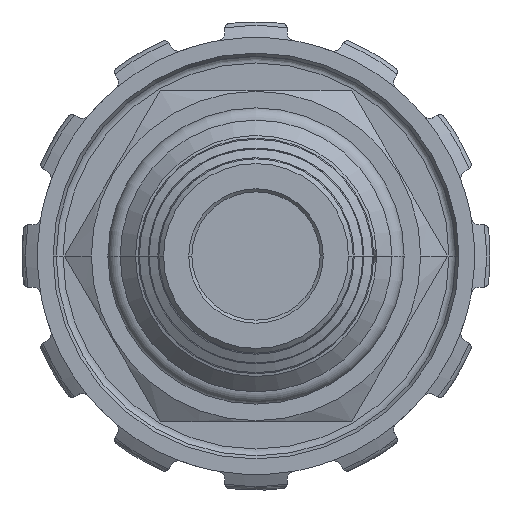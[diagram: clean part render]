
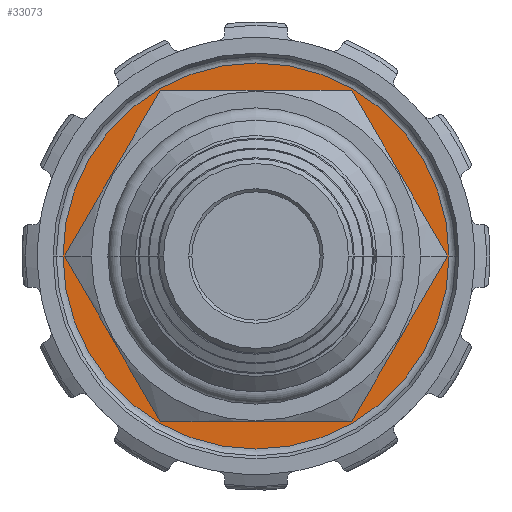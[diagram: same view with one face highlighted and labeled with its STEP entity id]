
A CAD part, front view. The second image highlights one B-rep face of the part: STEP entity #33073.
In plain terms, the highlighted planar face has unit normal (0, -1, 0).
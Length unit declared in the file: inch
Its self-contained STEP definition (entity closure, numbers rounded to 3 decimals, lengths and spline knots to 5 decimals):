
#11514=CARTESIAN_POINT('',(0.,1.259,0.));
#11515=DIRECTION('',(0.,1.,0.));
#11516=DIRECTION('',(-1.,0.,0.));
#11517=AXIS2_PLACEMENT_3D('',#11514,#11515,#11516);
#11522=CARTESIAN_POINT('',(0.,1.259,0.));
#11523=DIRECTION('',(0.,1.,0.));
#11524=DIRECTION('',(1.,0.,0.));
#11525=AXIS2_PLACEMENT_3D('',#11522,#11523,#11524);
#11530=CARTESIAN_POINT('',(0.,1.259,0.));
#11531=DIRECTION('',(0.,1.,0.));
#11532=DIRECTION('',(-1.,0.,0.));
#11533=AXIS2_PLACEMENT_3D('',#11530,#11531,#11532);
#11538=CARTESIAN_POINT('',(0.,1.259,0.));
#11539=DIRECTION('',(0.,1.,0.));
#11540=DIRECTION('',(1.,0.,0.));
#11541=AXIS2_PLACEMENT_3D('',#11538,#11539,#11540);
#29081=CARTESIAN_POINT('',(-0.61825,1.259,0.));
#29082=CARTESIAN_POINT('',(0.61825,1.259,0.));
#29083=VERTEX_POINT('',#29081);
#29084=VERTEX_POINT('',#29082);
#29093=CARTESIAN_POINT('',(-0.51157,1.259,0.));
#29094=CARTESIAN_POINT('',(0.51157,1.259,0.));
#29095=VERTEX_POINT('',#29093);
#29096=VERTEX_POINT('',#29094);
#33058=CARTESIAN_POINT('',(0.,1.259,0.));
#33059=DIRECTION('',(0.,1.,0.));
#33060=DIRECTION('',(1.,0.,0.));
#33061=AXIS2_PLACEMENT_3D('',#33058,#33059,#33060);
#33062=PLANE('',#33061);
#33064=ORIENTED_EDGE('',*,*,#33063,.T.);
#33066=ORIENTED_EDGE('',*,*,#33065,.T.);
#33067=EDGE_LOOP('',(#33064,#33066));
#33068=FACE_OUTER_BOUND('',#33067,.F.);
#33069=ORIENTED_EDGE('',*,*,#33024,.F.);
#33070=ORIENTED_EDGE('',*,*,#33045,.F.);
#33071=EDGE_LOOP('',(#33069,#33070));
#33072=FACE_BOUND('',#33071,.F.);
#11518=CIRCLE('',#11517,0.61825);
#11526=CIRCLE('',#11525,0.61825);
#11534=CIRCLE('',#11533,0.51157);
#11542=CIRCLE('',#11541,0.51157);
#33024=EDGE_CURVE('',#29095,#29096,#11534,.T.);
#33045=EDGE_CURVE('',#29096,#29095,#11542,.T.);
#33063=EDGE_CURVE('',#29083,#29084,#11518,.T.);
#33065=EDGE_CURVE('',#29084,#29083,#11526,.T.);
#33073=ADVANCED_FACE('',(#33068,#33072),#33062,.F.);
